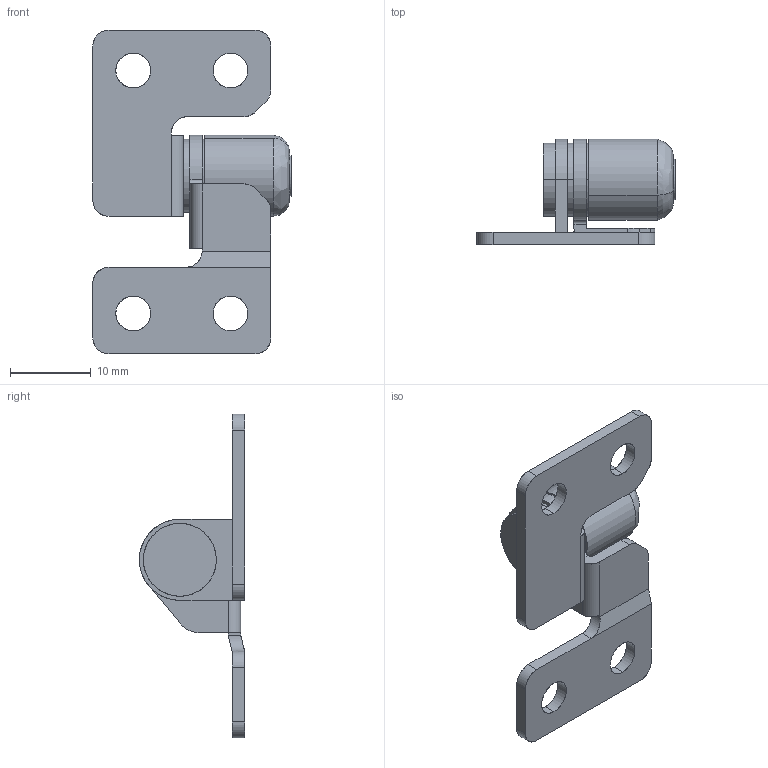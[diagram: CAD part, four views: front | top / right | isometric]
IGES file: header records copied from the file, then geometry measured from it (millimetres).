
Start section: SolidWorks IGES file using analytic representation for surfaces
Bounding box: 24.5 x 13 x 40 mm (x, y, z)
Surface area: 3333 mm2 (no closed solid volume)
Topology: 0 solids, 0 shells, 134 faces, 1944 edges, 1944 vertices
Faces by surface type: revolution 72, bspline 62
